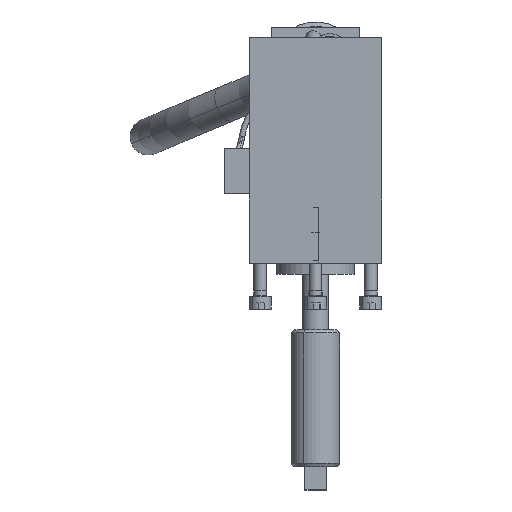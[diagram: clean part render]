
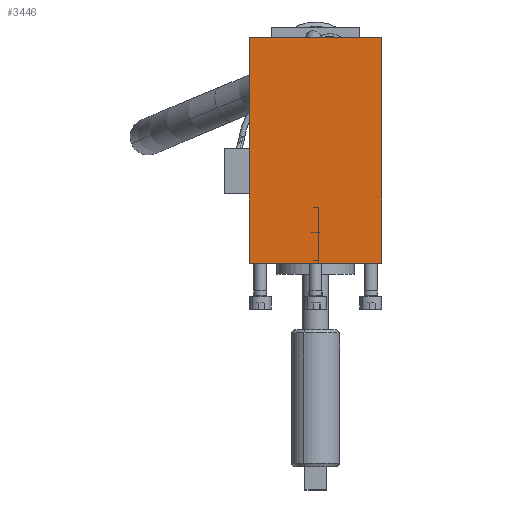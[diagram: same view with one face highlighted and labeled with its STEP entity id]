
A CAD part, top view. The second image highlights one B-rep face of the part: STEP entity #3446.
In plain terms, the highlighted planar face has unit normal (0, 0, 1).
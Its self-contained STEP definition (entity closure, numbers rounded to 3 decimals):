
#2950=CARTESIAN_POINT('Vertex',(30.,-42.,371.1)) ;
#2955=CARTESIAN_POINT('Line Origine',(0.,-42.,371.1)) ;
#2959=CARTESIAN_POINT('Vertex',(-30.,-42.,371.1)) ;
#3388=CARTESIAN_POINT('Line Origine',(-30.,9.,371.1)) ;
#3392=CARTESIAN_POINT('Vertex',(-30.,60.,371.1)) ;
#3423=CARTESIAN_POINT('Axis2P3D Location',(-30.,60.,371.1)) ;
#3428=CARTESIAN_POINT('Line Origine',(30.,9.,371.1)) ;
#3432=CARTESIAN_POINT('Vertex',(30.,60.,371.1)) ;
#3435=CARTESIAN_POINT('Line Origine',(0.,60.,371.1)) ;
#2956=DIRECTION('Vector Direction',(1.,0.,0.)) ;
#3389=DIRECTION('Vector Direction',(0.,-1.,0.)) ;
#3424=DIRECTION('Axis2P3D Direction',(0.,0.,-1.)) ;
#3425=DIRECTION('Axis2P3D XDirection',(1.,0.,0.)) ;
#3429=DIRECTION('Vector Direction',(0.,-1.,0.)) ;
#3436=DIRECTION('Vector Direction',(1.,0.,0.)) ;
#3426=AXIS2_PLACEMENT_3D('Plane Axis2P3D',#3423,#3424,#3425) ;
#3441=ORIENTED_EDGE('',*,*,#2961,.T.) ;
#3442=ORIENTED_EDGE('',*,*,#3434,.F.) ;
#3443=ORIENTED_EDGE('',*,*,#3439,.F.) ;
#3444=ORIENTED_EDGE('',*,*,#3394,.T.) ;
#2957=VECTOR('Line Direction',#2956,1.) ;
#3390=VECTOR('Line Direction',#3389,1.) ;
#3430=VECTOR('Line Direction',#3429,1.) ;
#3437=VECTOR('Line Direction',#3436,1.) ;
#3446=ADVANCED_FACE('',(#3445),#3427,.F.) ;
#2961=EDGE_CURVE('',#2960,#2951,#2958,.T.) ;
#3394=EDGE_CURVE('',#3393,#2960,#3391,.T.) ;
#3434=EDGE_CURVE('',#3433,#2951,#3431,.T.) ;
#3439=EDGE_CURVE('',#3393,#3433,#3438,.T.) ;
#3440=EDGE_LOOP('',(#3441,#3442,#3443,#3444)) ;
#3445=FACE_OUTER_BOUND('',#3440,.T.) ;
#2958=LINE('Line',#2955,#2957) ;
#3391=LINE('Line',#3388,#3390) ;
#3431=LINE('Line',#3428,#3430) ;
#3438=LINE('Line',#3435,#3437) ;
#3427=PLANE('Plane',#3426) ;
#2951=VERTEX_POINT('',#2950) ;
#2960=VERTEX_POINT('',#2959) ;
#3393=VERTEX_POINT('',#3392) ;
#3433=VERTEX_POINT('',#3432) ;
